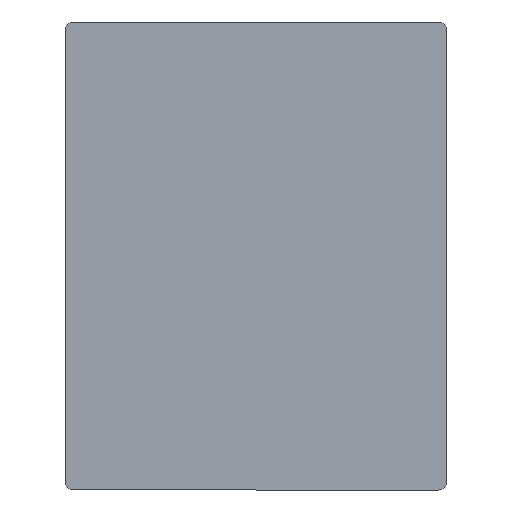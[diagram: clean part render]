
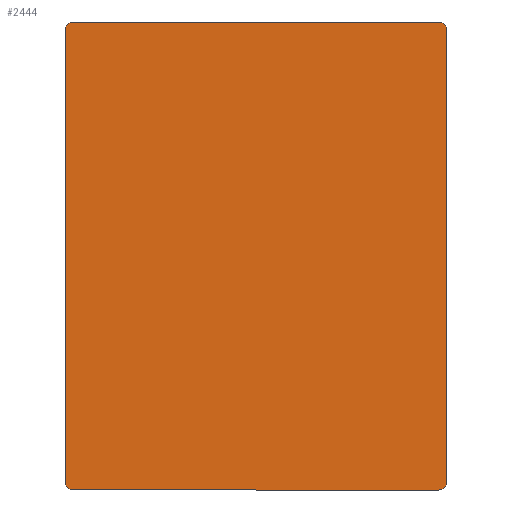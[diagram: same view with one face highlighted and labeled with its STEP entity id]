
A CAD part, front view. The second image highlights one B-rep face of the part: STEP entity #2444.
In plain terms, the highlighted planar face has unit normal (0, -1, 0).
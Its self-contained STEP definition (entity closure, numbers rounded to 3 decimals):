
#82 = CARTESIAN_POINT ( 'NONE',  ( 46.6, -126., 55.1 ) ) ;
#123 = FACE_OUTER_BOUND ( 'NONE', #902, .T. ) ;
#203 = EDGE_CURVE ( 'NONE', #1496, #325, #971, .T. ) ;
#248 = CARTESIAN_POINT ( 'NONE',  ( -45.771, -126., 57.1 ) ) ;
#325 = VERTEX_POINT ( 'NONE', #3825 ) ;
#388 = CARTESIAN_POINT ( 'NONE',  ( -44.6, -126., -57.1 ) ) ;
#419 = CARTESIAN_POINT ( 'NONE',  ( 46.6, -126., -55.1 ) ) ;
#473 = VERTEX_POINT ( 'NONE', #3102 ) ;
#583 = CARTESIAN_POINT ( 'NONE',  ( -45.5, -126., -57.1 ) ) ;
#680 = ORIENTED_EDGE ( 'NONE', *, *, #3001, .T. ) ;
#692 = CARTESIAN_POINT ( 'NONE',  ( -44.6, -126., 57.1 ) ) ;
#859 = VERTEX_POINT ( 'NONE', #692 ) ;
#897 = CARTESIAN_POINT ( 'NONE',  ( -46.6, -126., 56.271 ) ) ;
#902 = EDGE_LOOP ( 'NONE', ( #1298, #929, #1647, #3555, #2811, #680, #3454, #907 ) ) ;
#907 = ORIENTED_EDGE ( 'NONE', *, *, #2293, .T. ) ;
#929 = ORIENTED_EDGE ( 'NONE', *, *, #1142, .T. ) ;
#971 =( BOUNDED_CURVE ( )  B_SPLINE_CURVE ( 3, ( #4096, #3779, #3127, #2812 ),
 .UNSPECIFIED., .F., .F. ) 
 B_SPLINE_CURVE_WITH_KNOTS ( ( 4, 4 ),
 ( 2.356, 3.927 ),
 .UNSPECIFIED. ) 
 CURVE ( )  GEOMETRIC_REPRESENTATION_ITEM ( )  RATIONAL_B_SPLINE_CURVE ( ( 1., 0.805, 0.805, 1. ) ) 
 REPRESENTATION_ITEM ( '' )  );
#1021 = LINE ( 'NONE', #1207, #3472 ) ;
#1066 = CARTESIAN_POINT ( 'NONE',  ( 46.6, -126., -55.1 ) ) ;
#1091 = CARTESIAN_POINT ( 'NONE',  ( -45.5, -126., 56. ) ) ;
#1132 = VERTEX_POINT ( 'NONE', #1750 ) ;
#1142 = EDGE_CURVE ( 'NONE', #1821, #3979, #3272, .T. ) ;
#1167 =( BOUNDED_CURVE ( )  B_SPLINE_CURVE ( 3, ( #3268, #3589, #2337, #388 ),
 .UNSPECIFIED., .F., .F. ) 
 B_SPLINE_CURVE_WITH_KNOTS ( ( 4, 4 ),
 ( 2.356, 3.927 ),
 .UNSPECIFIED. ) 
 CURVE ( )  GEOMETRIC_REPRESENTATION_ITEM ( )  RATIONAL_B_SPLINE_CURVE ( ( 1., 0.805, 0.805, 1. ) ) 
 REPRESENTATION_ITEM ( '' )  );
#1207 = CARTESIAN_POINT ( 'NONE',  ( 46.6, -126., 56. ) ) ;
#1220 = VECTOR ( 'NONE', #2492, 1000. ) ;
#1298 = ORIENTED_EDGE ( 'NONE', *, *, #3052, .F. ) ;
#1496 = VERTEX_POINT ( 'NONE', #82 ) ;
#1535 = LINE ( 'NONE', #2473, #2197 ) ;
#1647 = ORIENTED_EDGE ( 'NONE', *, *, #2995, .F. ) ;
#1750 = CARTESIAN_POINT ( 'NONE',  ( -44.6, -126., -57.1 ) ) ;
#1757 = DIRECTION ( 'NONE',  ( 0., 0., 1. ) ) ;
#1800 = CARTESIAN_POINT ( 'NONE',  ( -46.6, -126., -55.1 ) ) ;
#1821 = VERTEX_POINT ( 'NONE', #3382 ) ;
#1930 = AXIS2_PLACEMENT_3D ( 'NONE', #1091, #3658, #1757 ) ;
#2153 = CARTESIAN_POINT ( 'NONE',  ( -45.5, -126., 57.1 ) ) ;
#2197 = VECTOR ( 'NONE', #2781, 1000. ) ;
#2293 = EDGE_CURVE ( 'NONE', #3929, #1132, #1167, .T. ) ;
#2337 = CARTESIAN_POINT ( 'NONE',  ( -45.771, -126., -57.1 ) ) ;
#2392 = CARTESIAN_POINT ( 'NONE',  ( 44.6, -126., -57.1 ) ) ;
#2432 =( BOUNDED_CURVE ( )  B_SPLINE_CURVE ( 3, ( #2515, #248, #897, #3136 ),
 .UNSPECIFIED., .F., .F. ) 
 B_SPLINE_CURVE_WITH_KNOTS ( ( 4, 4 ),
 ( 2.356, 3.927 ),
 .UNSPECIFIED. ) 
 CURVE ( )  GEOMETRIC_REPRESENTATION_ITEM ( )  RATIONAL_B_SPLINE_CURVE ( ( 1., 0.805, 0.805, 1. ) ) 
 REPRESENTATION_ITEM ( '' )  );
#2444 = ADVANCED_FACE ( 'NONE', ( #123 ), #3018, .F. ) ;
#2473 = CARTESIAN_POINT ( 'NONE',  ( -46.6, -126., 56. ) ) ;
#2492 = DIRECTION ( 'NONE',  ( 1., 0., 0. ) ) ;
#2515 = CARTESIAN_POINT ( 'NONE',  ( -44.6, -126., 57.1 ) ) ;
#2781 = DIRECTION ( 'NONE',  ( 0., 0., 1. ) ) ;
#2811 = ORIENTED_EDGE ( 'NONE', *, *, #3392, .F. ) ;
#2812 = CARTESIAN_POINT ( 'NONE',  ( 44.6, -126., 57.1 ) ) ;
#2995 = EDGE_CURVE ( 'NONE', #1496, #3979, #1021, .T. ) ;
#3001 = EDGE_CURVE ( 'NONE', #859, #473, #2432, .T. ) ;
#3011 = CARTESIAN_POINT ( 'NONE',  ( 45.771, -126., -57.1 ) ) ;
#3018 = PLANE ( 'NONE',  #1930 ) ;
#3052 = EDGE_CURVE ( 'NONE', #1821, #1132, #4136, .T. ) ;
#3102 = CARTESIAN_POINT ( 'NONE',  ( -46.6, -126., 55.1 ) ) ;
#3123 = DIRECTION ( 'NONE',  ( 0., 0., -1. ) ) ;
#3127 = CARTESIAN_POINT ( 'NONE',  ( 45.771, -126., 57.1 ) ) ;
#3136 = CARTESIAN_POINT ( 'NONE',  ( -46.6, -126., 55.1 ) ) ;
#3151 = DIRECTION ( 'NONE',  ( -1., 0., 0. ) ) ;
#3268 = CARTESIAN_POINT ( 'NONE',  ( -46.6, -126., -55.1 ) ) ;
#3272 =( BOUNDED_CURVE ( )  B_SPLINE_CURVE ( 3, ( #2392, #3011, #3985, #1066 ),
 .UNSPECIFIED., .F., .F. ) 
 B_SPLINE_CURVE_WITH_KNOTS ( ( 4, 4 ),
 ( 2.356, 3.927 ),
 .UNSPECIFIED. ) 
 CURVE ( )  GEOMETRIC_REPRESENTATION_ITEM ( )  RATIONAL_B_SPLINE_CURVE ( ( 1., 0.805, 0.805, 1. ) ) 
 REPRESENTATION_ITEM ( '' )  );
#3278 = VECTOR ( 'NONE', #3151, 1000. ) ;
#3369 = EDGE_CURVE ( 'NONE', #3929, #473, #1535, .T. ) ;
#3382 = CARTESIAN_POINT ( 'NONE',  ( 44.6, -126., -57.1 ) ) ;
#3392 = EDGE_CURVE ( 'NONE', #859, #325, #3782, .T. ) ;
#3454 = ORIENTED_EDGE ( 'NONE', *, *, #3369, .F. ) ;
#3472 = VECTOR ( 'NONE', #3123, 1000. ) ;
#3555 = ORIENTED_EDGE ( 'NONE', *, *, #203, .T. ) ;
#3589 = CARTESIAN_POINT ( 'NONE',  ( -46.6, -126., -56.271 ) ) ;
#3658 = DIRECTION ( 'NONE',  ( 0., 1., 0. ) ) ;
#3779 = CARTESIAN_POINT ( 'NONE',  ( 46.6, -126., 56.271 ) ) ;
#3782 = LINE ( 'NONE', #2153, #1220 ) ;
#3825 = CARTESIAN_POINT ( 'NONE',  ( 44.6, -126., 57.1 ) ) ;
#3929 = VERTEX_POINT ( 'NONE', #1800 ) ;
#3979 = VERTEX_POINT ( 'NONE', #419 ) ;
#3985 = CARTESIAN_POINT ( 'NONE',  ( 46.6, -126., -56.271 ) ) ;
#4096 = CARTESIAN_POINT ( 'NONE',  ( 46.6, -126., 55.1 ) ) ;
#4136 = LINE ( 'NONE', #583, #3278 ) ;
